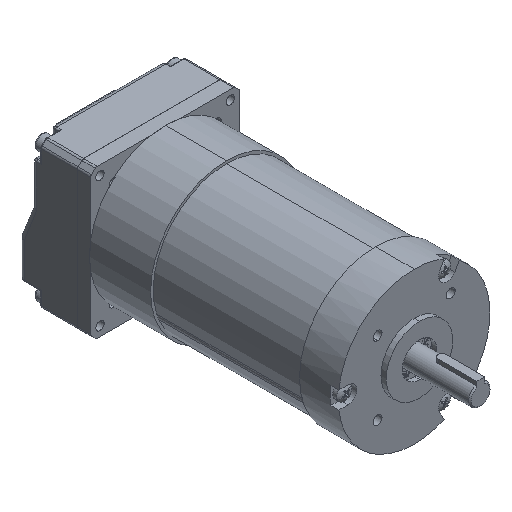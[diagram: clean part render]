
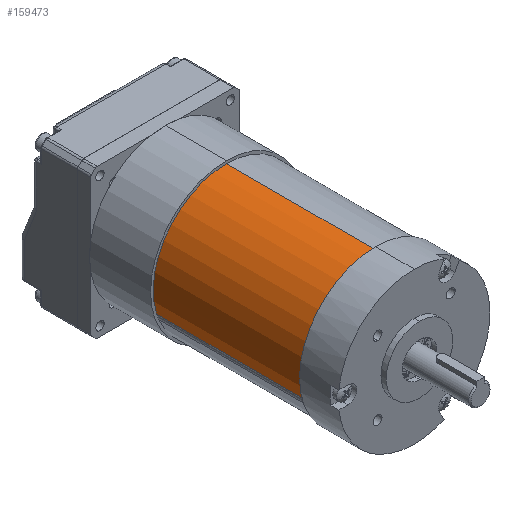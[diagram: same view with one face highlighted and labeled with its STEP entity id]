
A CAD part, isometric view. The second image highlights one B-rep face of the part: STEP entity #159473.
In plain terms, the highlighted cylindrical face has radius 27.5 mm (diameter 55 mm), a partial arc.
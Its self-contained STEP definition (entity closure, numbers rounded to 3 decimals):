
#111438=CARTESIAN_POINT('',(0.,0.,-2.));
#111439=DIRECTION('',(0.,0.,-1.));
#111440=DIRECTION('',(1.,0.,0.));
#111441=AXIS2_PLACEMENT_3D('',#111438,#111439,#111440);
#111471=CARTESIAN_POINT('',(0.,0.,-58.));
#111472=DIRECTION('',(0.,0.,1.));
#111473=DIRECTION('',(-0.303,-0.953,0.));
#111474=AXIS2_PLACEMENT_3D('',#111471,#111472,#111473);
#121343=DIRECTION('',(0.,0.,1.));
#121344=VECTOR('',#121343,56.);
#121345=CARTESIAN_POINT('',(-8.327,-26.209,-58.));
#121346=LINE('',#121345,#121344);
#121347=DIRECTION('',(0.,0.,-1.));
#121348=VECTOR('',#121347,56.);
#121349=CARTESIAN_POINT('',(27.5,0.,-2.));
#121350=LINE('',#121349,#121348);
#137220=CARTESIAN_POINT('',(27.5,0.,-2.));
#137221=VERTEX_POINT('',#137220);
#137222=CARTESIAN_POINT('',(-8.327,-26.209,-2.));
#137223=VERTEX_POINT('',#137222);
#137232=CARTESIAN_POINT('',(-8.327,-26.209,-58.));
#137233=VERTEX_POINT('',#137232);
#137234=CARTESIAN_POINT('',(27.5,0.,-58.));
#137235=VERTEX_POINT('',#137234);
#159461=CARTESIAN_POINT('',(0.,0.,-2.25));
#159462=DIRECTION('',(0.,0.,1.));
#159463=DIRECTION('',(-1.,0.,0.));
#159464=AXIS2_PLACEMENT_3D('',#159461,#159462,#159463);
#159465=CYLINDRICAL_SURFACE('',#159464,27.5);
#159466=ORIENTED_EDGE('',*,*,#145280,.F.);
#159467=ORIENTED_EDGE('',*,*,#159422,.T.);
#159468=ORIENTED_EDGE('',*,*,#145245,.F.);
#159470=ORIENTED_EDGE('',*,*,#159469,.T.);
#159471=EDGE_LOOP('',(#159466,#159467,#159468,#159470));
#159472=FACE_OUTER_BOUND('',#159471,.F.);
#111442=CIRCLE('',#111441,27.5);
#111475=CIRCLE('',#111474,27.5);
#145245=EDGE_CURVE('',#137221,#137223,#111442,.T.);
#145280=EDGE_CURVE('',#137233,#137235,#111475,.T.);
#159422=EDGE_CURVE('',#137233,#137223,#121346,.T.);
#159469=EDGE_CURVE('',#137221,#137235,#121350,.T.);
#159473=ADVANCED_FACE('',(#159472),#159465,.T.);
